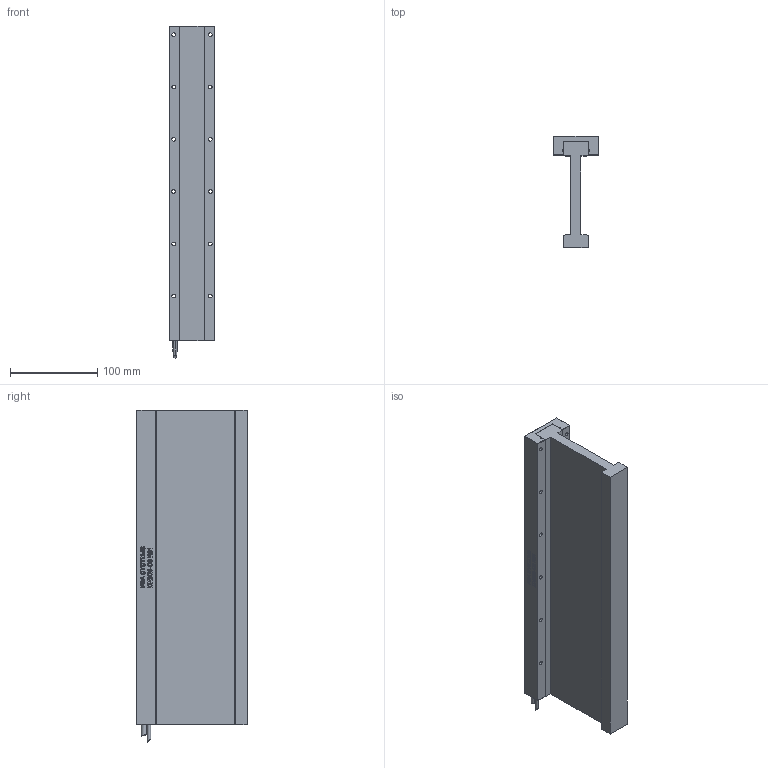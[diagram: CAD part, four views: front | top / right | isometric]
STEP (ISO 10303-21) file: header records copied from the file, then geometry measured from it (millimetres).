
FILE_DESCRIPTION (( 'STEP AP214' ), '1' );
FILE_NAME ('DX90B-C6-000.STEP', '2016-05-09T09:42:59', ( '' ), ( '' ), 'SwSTEP 2.0', 'SolidWorks 2015', '' );
FILE_SCHEMA (( 'AUTOMOTIVE_DESIGN' ));
Length unit declared in the file: millimetre
Products named in the file (5): DX90B-C6-001_CUSTOMER ; CBL_MTR_HALL_SS_5C_SA (#2935-1); CBL_MTR_PWR_SS_7C2C_SA (#2936-1); DX90B-CX-002_C6; DX90B-C6-000
Assembly tree (4 placements, depth 2):
  DX90B-C6-000
    DX90B-CX-002_C6
    CBL_MTR_PWR_SS_7C2C_SA (#2936-1)
    CBL_MTR_HALL_SS_5C_SA (#2935-1)
    DX90B-C6-001_CUSTOMER 
Bounding box: 52 x 127 x 381 mm (x, y, z)
Volume: 920910.3 mm3; surface area: 193794.6 mm2
Topology: 4 solids, 4 shells, 716 faces, 1902 edges, 1260 vertices
Faces by surface type: plane 375, bspline 306, cylinder 35
Entity records: 38843 total; most frequent: CARTESIAN_POINT 22535, ORIENTED_EDGE 3804, DIRECTION 2191, EDGE_CURVE 1902, VERTEX_POINT 1260, VECTOR 1223, LINE 1223, EDGE_LOOP 806
